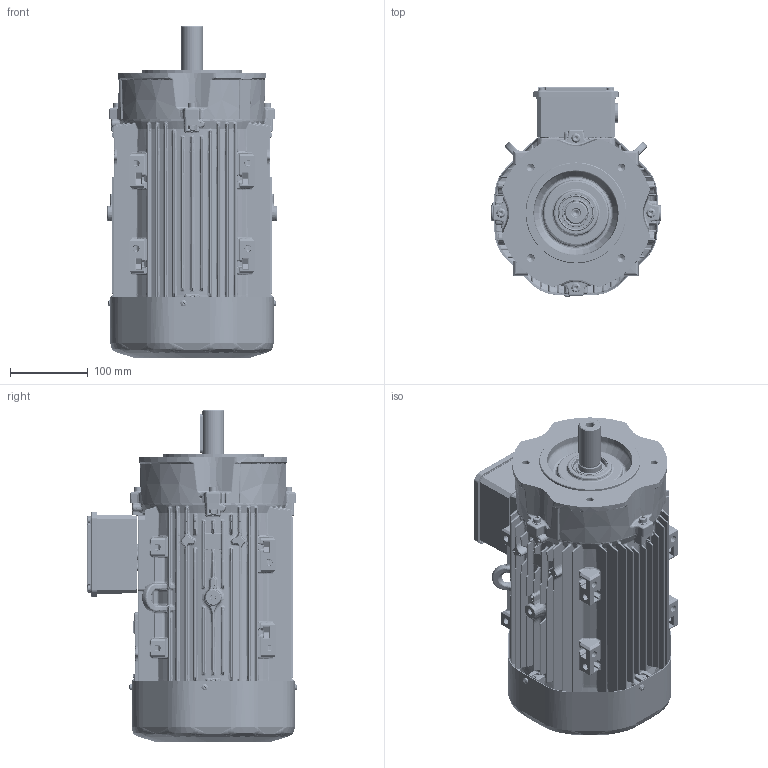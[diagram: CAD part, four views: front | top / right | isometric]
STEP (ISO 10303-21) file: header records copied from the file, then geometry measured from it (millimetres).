
FILE_DESCRIPTION(/* description */ (''),/* implementation_level */ '2;1');
FILE_NAME(/* name */ 'OUTLOOK VIEW QH112 FC B14 - BIGGER FT165 SPL.stp',/* time_stamp */ '2021-09-21T14:53:22+03:00',/* author */ (''),/* organization */ (''),/* preprocessor_version */ 'ST-DEVELOPER v16',/* originating_system */ 'SIEMENS PLM Software NX 11.0',/* authorisation */ '');
FILE_SCHEMA (('AUTOMOTIVE_DESIGN { 1 0 10303 214 3 1 1 1 }'));
Products named in the file (1): 260652D491E0rx42
Bounding box: 219 x 270.61 x 427.6 mm (x, y, z)
Volume: 2542677.9 mm3; surface area: 1183372 mm2
Topology: 65 solids, 71 shells, 11839 faces, 27977 edges, 15888 vertices
Faces by surface type: bspline 3784, cylinder 3770, plane 2241, sphere 853, torus 605, cone 576, extrusion 10
Full cylindrical faces by diameter (mm): 2 x14, 3 x2, 3.3 x4, 3.7 x4, 3.985 x1, 4 x9, 4.22 x1, 4.6 x3, 4.722 x2, 5 x11, 6 x8, 6.4 x12, 8 x9, 8.5 x5, 10 x8, 10.5 x1, 12 x8, 23.38 x2, 24.4 x1, 25 x3, 27.4 x1, 28 x1, 28.6 x1, 29.4 x2, 30 x5, 30.2 x1, 30.5 x1, 32.94 x1, 34 x3, 40.36 x4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
Entity records: 410874 total; most frequent: CARTESIAN_POINT 163953, ORIENTED_EDGE 53568, DIRECTION 48392, EDGE_CURVE 26784, AXIS2_PLACEMENT_3D 20100, VERTEX_POINT 15699, EDGE_LOOP 12881, ADVANCED_FACE 11832
